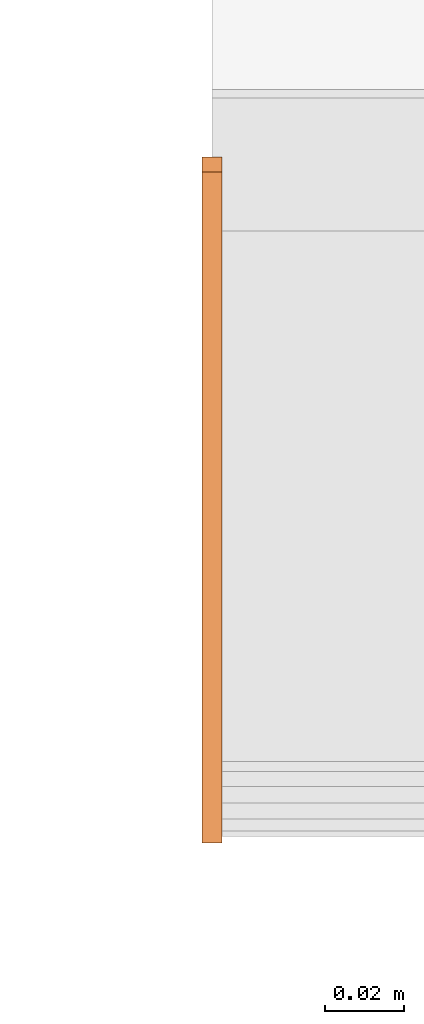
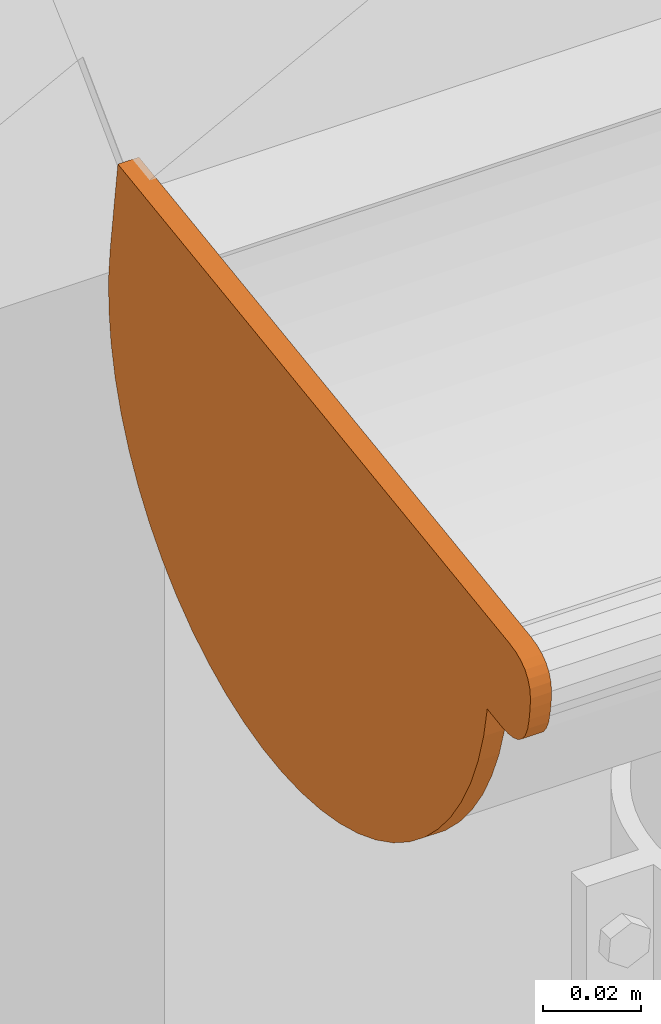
# One storey, part 27 of 43: 1 proxy.
"""IFC2X3 building model written with IfcOpenShell, lengths in millimetres."""

from ifc_helpers import new_model, si_unit, frame, origin_with_axes, place, context, project, spatial, faceted_brep, element, save


model = new_model("IFC2X3")

# Units and contexts
model_context = context("Model", 3, world=origin_with_axes())
ifc_project = project(units=[si_unit("LENGTHUNIT", "METRE", prefix="MILLI")], contexts=[model_context])

# Site, building, storey
site_placement = place(None, origin_with_axes())
site = spatial("IfcSite", under=ifc_project, at=site_placement, Name="Site", CompositionType="ELEMENT")
building_placement = place(site_placement, origin_with_axes())
building = spatial("IfcBuilding", under=site, at=building_placement, Name="?", CompositionType="ELEMENT")
storey_placement = place(building_placement, frame((0.0, 0.0, 5938.0), z_axis=(0.0, 0.0, 1.0), x_axis=(1.0, 0.0, 0.0)))
storey = spatial("IfcBuildingStorey", under=building, at=storey_placement, Name="Dachgeschoß", CompositionType="ELEMENT", Elevation=5938.0)

# Proxy
proxy_placement = place(None, origin_with_axes())
element("IfcBuildingElementProxy", 1, at=proxy_placement, inside=storey, Name="Dach02_RoofGutter#024", ObjectType="gutter", CompositionType="ELEMENT", context=model_context, shape_type="Brep", body=[
    faceted_brep([(9202.5, -7754.2509765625, 6644.93896484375), (9197.5, -7754.2509765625, 6644.93896484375), (9197.5, -7752.75647654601, 6637.18036494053), (9202.5, -7752.75647654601, 6637.18036494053), (9202.5, -7752.75634765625, 6637.18017578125), (9197.5, -7752.75634765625, 6637.18017578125), (9197.5, -7750.48454766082, 6629.61247599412), (9202.5, -7750.48454766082, 6629.61247599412), (9202.5, -7750.484375, 6629.61279296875), (9197.5, -7750.484375, 6629.61279296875), (9197.5, -7747.45867502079, 6622.31389280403), (9202.5, -7747.45867502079, 6622.31389280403), (9202.5, -7747.458984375, 6622.3134765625), (9197.5, -7747.458984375, 6622.3134765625), (9197.5, -7743.71028437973, 6615.3580766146), (9202.5, -7743.71028437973, 6615.3580766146), (9202.5, -7743.7099609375, 6615.3583984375), (9197.5, -7743.7099609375, 6615.3583984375), (9197.5, -7739.27686074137, 6608.81789834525), (9202.5, -7739.27686074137, 6608.81789834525), (9202.5, -7739.27734375, 6608.81787109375), (9197.5, -7739.27734375, 6608.81787109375), (9197.5, -7734.20534357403, 6602.75937116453), (9202.5, -7734.20534357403, 6602.75937116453), (9202.5, -7734.205078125, 6602.75927734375), (9197.5, -7734.205078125, 6602.75927734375), (9197.5, -7728.54617810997, 6597.24507732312), (9202.5, -7728.54617810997, 6597.24507732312), (9202.5, -7728.54638671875, 6597.2451171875), (9197.5, -7728.54638671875, 6597.2451171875), (9197.5, -7722.35858673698, 6592.33171697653), (9202.5, -7722.35858673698, 6592.33171697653), (9202.5, -7722.3583984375, 6592.33154296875), (9197.5, -7722.3583984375, 6592.33154296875), (9197.5, -7715.70539846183, 6588.06924304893), (9202.5, -7715.70539846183, 6588.06924304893), (9202.5, -7715.70556640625, 6588.0693359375), (9197.5, -7715.70556640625, 6588.0693359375), (9197.5, -7708.65536663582, 6584.50213591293), (9202.5, -7708.65536663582, 6584.50213591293), (9202.5, -7708.6552734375, 6584.501953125), (9197.5, -7708.6552734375, 6584.501953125), (9197.5, -7701.28037339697, 6581.66625324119), (9202.5, -7701.28037339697, 6581.66625324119), (9202.5, -7701.2802734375, 6581.66650390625), (9197.5, -7701.2802734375, 6581.66650390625), (9197.5, -7693.65637361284, 6579.59140394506), (9202.5, -7693.65637361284, 6579.59140394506), (9202.5, -7693.65625, 6579.59130859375), (9197.5, -7693.65625, 6579.59130859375), (9197.5, -7685.86154998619, 6578.29820858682), (9202.5, -7685.86154998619, 6578.29820858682), (9202.5, -7685.86181640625, 6578.29833984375), (9197.5, -7685.86181640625, 6578.29833984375), (9197.5, -7677.97621626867, 6577.80043982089), (9202.5, -7677.97621626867, 6577.80043982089), (9202.5, -7677.97607421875, 6577.80029296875), (9197.5, -7677.97607421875, 6577.80029296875), (9197.5, -7670.08057429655, 6578.10269295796), (9202.5, -7670.08057429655, 6578.10269295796), (9202.5, -7670.08056640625, 6578.1025390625), (9197.5, -7670.08056640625, 6578.1025390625), (9197.5, -7662.2561663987, 6579.20223903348), (9202.5, -7662.2561663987, 6579.20223903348), (9202.5, -7662.25634765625, 6579.20263671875), (9197.5, -7662.25634765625, 6579.20263671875), (9197.5, -7654.58334766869, 6581.08813669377), (9202.5, -7654.58334766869, 6581.08813669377), (9202.5, -7654.5830078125, 6581.087890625), (9197.5, -7654.5830078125, 6581.087890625), (9197.5, -7647.14020801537, 6583.74009059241), (9202.5, -7647.14020801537, 6583.74009059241), (9202.5, -7647.140625, 6583.740234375), (9197.5, -7647.140625, 6583.740234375), (9197.5, -7640.00422499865, 6587.13183440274), (9202.5, -7640.00422499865, 6587.13183440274), (9202.5, -7640.00390625, 6587.1318359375), (9197.5, -7640.00390625, 6587.1318359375), (9197.5, -7633.24730613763, 6591.22793584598), (9202.5, -7633.24730613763, 6591.22793584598), (9202.5, -7633.24755859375, 6591.22802734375), (9197.5, -7633.24755859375, 6591.22802734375), (9197.5, -7626.94005870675, 6595.98662726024), (9202.5, -7626.94005870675, 6595.98662726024), (9202.5, -7626.93994140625, 6595.986328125), (9197.5, -7626.93994140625, 6595.986328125), (9197.5, -7621.14614135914, 6601.35872833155), (9202.5, -7621.14614135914, 6601.35872833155), (9202.5, -7621.14599609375, 6601.35888671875), (9197.5, -7621.14599609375, 6601.35888671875), (9197.5, -7615.92549597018, 6607.28988671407), (9202.5, -7615.92549597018, 6607.28988671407), (9202.5, -7615.92578125, 6607.2900390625), (9197.5, -7615.92578125, 6607.2900390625), (9197.5, -7611.33198134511, 6613.71863918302), (9202.5, -7611.33198134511, 6613.71863918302), (9202.5, -7611.33203125, 6613.71826171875), (9197.5, -7611.33203125, 6613.71826171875), (9197.5, -7607.41233128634, 6620.57876151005), (9202.5, -7607.41233128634, 6620.57876151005), (9202.5, -7607.412109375, 6620.5791015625), (9197.5, -7607.412109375, 6620.5791015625), (9197.5, -7604.20650946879, 6627.8008014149), (9202.5, -7604.20650946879, 6627.8008014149), (9202.5, -7604.20654296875, 6627.80078125), (9197.5, -7604.20654296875, 6627.80078125), (9197.5, -7601.74794288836, 6635.30988116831), (9202.5, -7601.74794288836, 6635.30988116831), (9202.5, -7601.748046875, 6635.3095703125), (9197.5, -7601.748046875, 6635.3095703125), (9197.5, -7600.06184691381, 6643.02877046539), (9202.5, -7600.06184691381, 6643.02877046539), (9202.5, -7600.0615234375, 6643.02880859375), (9197.5, -7600.0615234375, 6643.02880859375), (9197.5, -7599.16482343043, 6650.87910882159), (9202.5, -7599.16482343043, 6650.87910882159), (9202.5, -7599.1650390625, 6650.87939453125), (9197.5, -7599.1650390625, 6650.87939453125), (9197.5, -7599.06723906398, 6658.77999466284), (9202.5, -7599.06723906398, 6658.77999466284), (9202.5, -7599.0673828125, 6658.77978515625), (9197.5, -7599.0673828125, 6658.77978515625), (9197.5, -7599.76928279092, 6666.64988526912), (9202.5, -7599.76928279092, 6666.64988526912), (9202.5, -7599.76904296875, 6666.64990234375), (9197.5, -7599.76904296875, 6666.64990234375), (9197.5, -7677.00994139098, 6655.79430188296), (9202.5, -7677.00994139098, 6655.79430188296), (9202.5, -7677.009765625, 6655.79443359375), (9197.5, -7677.009765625, 6655.79443359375), (9197.5, -7754.25066421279, 6644.93893386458), (9202.5, -7754.25066421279, 6644.93893386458), (9202.5, -7677.009765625, 6655.79443359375), (9202.5, -7600.061465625, 6643.02903359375), (9202.5, -7599.066965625, 6658.77993359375), (9202.5, -7599.768865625, 6666.65003359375), (9202.5, -7599.0673828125, 6658.77978515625), (9202.5, -7600.0618828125, 6643.02888515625), (9202.5, -7599.1651828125, 6650.87918515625), (9202.5, -7600.0615234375, 6643.02880859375), (9202.5, -7611.3316234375, 6613.71830859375), (9202.5, -7604.2063234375, 6627.80050859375), (9202.5, -7601.7477234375, 6635.30960859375), (9202.5, -7604.20654296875, 6627.80078125), (9202.5, -7611.33184296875, 6613.71858125), (9202.5, -7607.41214296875, 6620.57908125), (9202.5, -7677.009765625, 6655.79443359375), (9202.5, -7662.255965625, 6579.20253359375), (9202.5, -7611.331565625, 6613.71853359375), (9202.5, -7600.061465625, 6643.02903359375), (9202.5, -7611.33203125, 6613.71826171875), (9202.5, -7633.24763125, 6591.22766171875), (9202.5, -7621.14633125, 6601.35866171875), (9202.5, -7615.92583125, 6607.28966171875), (9202.5, -7621.14599609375, 6601.35888671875), (9202.5, -7633.24729609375, 6591.22788671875), (9202.5, -7626.93979609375, 6595.98648671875), (9202.5, -7633.24755859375, 6591.22802734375), (9202.5, -7662.25635859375, 6579.20262734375), (9202.5, -7647.14055859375, 6583.74032734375), (9202.5, -7640.00415859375, 6587.13192734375), (9202.5, -7647.140625, 6583.740234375), (9202.5, -7662.256425, 6579.202534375), (9202.5, -7654.583425, 6581.088034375), (9202.5, -7611.33203125, 6613.71826171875), (9202.5, -7662.25643125, 6579.20226171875), (9202.5, -7633.24763125, 6591.22766171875), (9202.5, -7662.25634765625, 6579.20263671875), (9202.5, -7693.65654765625, 6579.59153671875), (9202.5, -7677.97624765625, 6577.80053671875), (9202.5, -7670.08074765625, 6578.10293671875), (9202.5, -7677.97607421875, 6577.80029296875), (9202.5, -7693.65637421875, 6579.59129296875), (9202.5, -7685.86167421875, 6578.29819296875), (9202.5, -7693.65625, 6579.59130859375), (9202.5, -7722.35825, 6592.33160859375), (9202.5, -7708.65505, 6584.50210859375), (9202.5, -7701.28015, 6581.66640859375), (9202.5, -7708.6552734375, 6584.501953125), (9202.5, -7722.3584734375, 6592.331453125), (9202.5, -7715.7054734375, 6588.069153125), (9202.5, -7662.25634765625, 6579.20263671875), (9202.5, -7677.01014765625, 6655.79453671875), (9202.5, -7722.35854765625, 6592.33183671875), (9202.5, -7693.65654765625, 6579.59153671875), (9202.5, -7722.3583984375, 6592.33154296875), (9202.5, -7743.7101984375, 6615.35814296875), (9202.5, -7734.2050984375, 6602.75914296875), (9202.5, -7728.5461984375, 6597.24494296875), (9202.5, -7734.205078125, 6602.75927734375), (9202.5, -7743.710178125, 6615.35827734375), (9202.5, -7739.277078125, 6608.81777734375), (9202.5, -7677.009765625, 6655.79443359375), (9202.5, -7750.484365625, 6629.61263359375), (9202.5, -7743.709965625, 6615.35833359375), (9202.5, -7722.358165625, 6592.33173359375), (9202.5, -7743.7099609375, 6615.3583984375), (9202.5, -7750.4843609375, 6629.6126984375), (9202.5, -7747.4586609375, 6622.3137984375), (9202.5, -7677.009765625, 6655.79443359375), (9202.5, -7754.250665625, 6644.93893359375), (9202.5, -7752.756165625, 6637.18033359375), (9202.5, -7750.484365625, 6629.61263359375), (9197.5, -7752.75634765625, 6637.18017578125), (9197.5, -7739.27704765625, 6608.81767578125), (9197.5, -7747.45884765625, 6622.31357578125), (9197.5, -7750.48454765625, 6629.61247578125), (9197.5, -7747.458984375, 6622.3134765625), (9197.5, -7739.277184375, 6608.8175765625), (9197.5, -7743.710284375, 6615.3580765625), (9197.5, -7739.27734375, 6608.81787109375), (9197.5, -7715.70564375, 6588.06947109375), (9197.5, -7728.54644375, 6597.24517109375), (9197.5, -7734.20534375, 6602.75937109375), (9197.5, -7728.54638671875, 6597.2451171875), (9197.5, -7715.70558671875, 6588.0694171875), (9197.5, -7722.35858671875, 6592.3317171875), (9197.5, -7752.75634765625, 6637.18017578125), (9197.5, -7654.58314765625, 6581.08787578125), (9197.5, -7715.70534765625, 6588.06927578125), (9197.5, -7739.27704765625, 6608.81767578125), (9197.5, -7715.70556640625, 6588.0693359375), (9197.5, -7685.86186640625, 6578.2982359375), (9197.5, -7701.28046640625, 6581.6664359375), (9197.5, -7708.65536640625, 6584.5021359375), (9197.5, -7701.2802734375, 6581.66650390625), (9197.5, -7685.8616734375, 6578.29830390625), (9197.5, -7693.6563734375, 6579.59140390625), (9197.5, -7685.86181640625, 6578.29833984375), (9197.5, -7654.58331640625, 6581.08803984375), (9197.5, -7670.08071640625, 6578.10283984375), (9197.5, -7677.97621640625, 6577.80043984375), (9197.5, -7670.08056640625, 6578.1025390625), (9197.5, -7654.58316640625, 6581.0877390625), (9197.5, -7662.25616640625, 6579.2022390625), (9197.5, -7715.70556640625, 6588.0693359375), (9197.5, -7654.58336640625, 6581.0879359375), (9197.5, -7685.86186640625, 6578.2982359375), (9197.5, -7654.5830078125, 6581.087890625), (9197.5, -7626.9397078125, 6595.986390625), (9197.5, -7640.0038078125, 6587.131690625), (9197.5, -7647.1402078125, 6583.740090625), (9197.5, -7640.00390625, 6587.1318359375), (9197.5, -7626.93980625, 6595.9865359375), (9197.5, -7633.24730625, 6591.2279359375), (9197.5, -7626.93994140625, 6595.986328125), (9197.5, -7607.41214140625, 6620.578828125), (9197.5, -7615.92564140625, 6607.289728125), (9197.5, -7621.14614140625, 6601.358728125), (9197.5, -7615.92578125, 6607.2900390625), (9197.5, -7607.41228125, 6620.5791390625), (9197.5, -7611.33198125, 6613.7186390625), (9197.5, -7654.5830078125, 6581.087890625), (9197.5, -7752.7562078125, 6637.180190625), (9197.5, -7607.4119078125, 6620.578890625), (9197.5, -7626.9397078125, 6595.986390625), (9197.5, -7607.412109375, 6620.5791015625), (9197.5, -7599.165009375, 6650.8794015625), (9197.5, -7601.747909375, 6635.3099015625), (9197.5, -7604.206509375, 6627.8008015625), (9197.5, -7601.748046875, 6635.3095703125), (9197.5, -7599.165146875, 6650.8790703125), (9197.5, -7600.061846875, 6643.0287703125), (9197.5, -7752.75634765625, 6637.18017578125), (9197.5, -7599.76904765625, 6666.64987578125), (9197.5, -7599.16494765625, 6650.87917578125), (9197.5, -7607.41204765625, 6620.57887578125), (9197.5, -7599.1650390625, 6650.87939453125), (9197.5, -7599.7691390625, 6666.65009453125), (9197.5, -7599.0672390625, 6658.77999453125), (9197.5, -7752.75634765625, 6637.18017578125), (9197.5, -7754.25084765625, 6644.93877578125), (9197.5, -7677.00994765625, 6655.79427578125), (9197.5, -7599.76904765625, 6666.64987578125), (9197.5, -7599.76904296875, 6666.64990234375), (9202.5, -7599.76904296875, 6666.64990234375), (9202.5, -7760.09054740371, 6644.10700284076), (9197.5, -7760.09054740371, 6644.10700284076), (9197.5, -7602.8671875, 6689.4296875), (9197.5, -7763.29158760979, 6666.88348798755), (9202.5, -7763.29158760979, 6666.88348798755), (9202.5, -7602.8671875, 6689.4296875), (9197.5, -7599.76904296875, 6666.64990234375), (9197.5, -7602.86714292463, 6689.42940178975), (9202.5, -7602.86714292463, 6689.42940178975), (9202.5, -7599.76904296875, 6666.64990234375), (9202.5, -7599.76904296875, 6666.64990234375), (9202.5, -7765.05394296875, 6644.23370234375), (9202.5, -7762.74594296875, 6643.93990234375), (9202.5, -7760.09054296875, 6644.10700234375), (9202.5, -7599.76904296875, 6666.64990234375), (9202.5, -7768.62794296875, 6646.20420234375), (9202.5, -7767.01464296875, 6644.98850234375), (9202.5, -7765.05394296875, 6644.23370234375), (9202.5, -7599.76904296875, 6666.64990234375), (9202.5, -7770.81254296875, 6650.01850234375), (9202.5, -7769.89394296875, 6647.88090234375), (9202.5, -7768.62794296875, 6646.20420234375), (9202.5, -7599.76904296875, 6666.64990234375), (9202.5, -7763.29154296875, 6666.88320234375), (9202.5, -7771.38384296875, 6652.61710234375), (9202.5, -7770.81254296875, 6650.01850234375), (9202.5, -7771.3837890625, 6652.6171875), (9202.5, -7771.6748890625, 6660.5533875), (9202.5, -7771.9686890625, 6658.2453875), (9202.5, -7771.8015890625, 6655.5899875), (9202.5, -7771.3837890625, 6652.6171875), (9202.5, -7769.7043890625, 6664.1273875), (9202.5, -7770.9200890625, 6662.5140875), (9202.5, -7771.6748890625, 6660.5533875), (9202.5, -7771.3837890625, 6652.6171875), (9202.5, -7765.8900890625, 6666.3119875), (9202.5, -7768.0276890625, 6665.3933875), (9202.5, -7769.7043890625, 6664.1273875), (9202.5, -7771.3837890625, 6652.6171875), (9202.5, -7763.2914890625, 6666.8832875), (9202.5, -7765.8900890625, 6666.3119875), (9202.5, -7599.76904296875, 6666.64990234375), (9202.5, -7602.86714296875, 6689.42940234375), (9202.5, -7763.29154296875, 6666.88320234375), (9202.5, -7771.3837890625, 6652.6171875), (9202.5, -7771.80158905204, 6655.58998747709), (9197.5, -7771.80158905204, 6655.58998747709), (9197.5, -7771.3837890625, 6652.6171875), (9197.5, -7760.0908203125, 6644.10693359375), (9197.5, -7771.8019203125, 6655.58983359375), (9197.5, -7602.8674203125, 6689.42933359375), (9197.5, -7599.7693203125, 6666.64983359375), (9197.5, -7602.8671875, 6689.4296875), (9197.5, -7768.0277875, 6665.3935875), (9197.5, -7765.8901875, 6666.3121875), (9197.5, -7763.2915875, 6666.8834875), (9197.5, -7602.8671875, 6689.4296875), (9197.5, -7770.9201875, 6662.5142875), (9197.5, -7769.7044875, 6664.1275875), (9197.5, -7768.0277875, 6665.3935875), (9197.5, -7602.8671875, 6689.4296875), (9197.5, -7771.9687875, 6658.2455875), (9197.5, -7771.6749875, 6660.5535875), (9197.5, -7770.9201875, 6662.5142875), (9197.5, -7602.8671875, 6689.4296875), (9197.5, -7771.8016875, 6655.5901875), (9197.5, -7771.9687875, 6658.2455875), (9197.5, -7762.74609375, 6643.93994140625), (9197.5, -7765.05409375, 6644.23374140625), (9197.5, -7771.80179375, 6655.58994140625), (9197.5, -7760.09069375, 6644.10704140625), (9197.5, -7767.0146484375, 6644.98876953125), (9197.5, -7768.6279484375, 6646.20446953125), (9197.5, -7771.8016484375, 6655.59016953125), (9197.5, -7765.0539484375, 6644.23396953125), (9197.5, -7769.89404296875, 6647.880859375), (9197.5, -7770.81264296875, 6650.018459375), (9197.5, -7771.80174296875, 6655.589859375), (9197.5, -7768.62804296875, 6646.204159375), (9197.5, -7771.3837890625, 6652.6171875), (9197.5, -7771.8015890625, 6655.5899875), (9197.5, -7770.8124890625, 6650.0185875), (9202.5, -7762.74609375, 6643.93994140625), (9197.5, -7762.74609375, 6643.93994140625), (9197.5, -7760.09069368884, 6644.10704139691), (9202.5, -7760.09069368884, 6644.10704139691), (9197.5, -7765.89013671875, 6666.31201171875), (9202.5, -7765.89013671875, 6666.31201171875), (9202.5, -7763.291536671, 6666.88331171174), (9197.5, -7763.291536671, 6666.88331171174), (9202.5, -7765.05419921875, 6644.23388671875), (9197.5, -7765.05419921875, 6644.23388671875), (9197.5, -7762.74619921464, 6643.9400867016), (9202.5, -7762.74619921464, 6643.9400867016), (9202.5, -7767.0146484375, 6644.98876953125), (9197.5, -7767.0146484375, 6644.98876953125), (9197.5, -7765.05394848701, 6644.23396956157), (9202.5, -7765.05394848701, 6644.23396956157), (9202.5, -7768.6279296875, 6646.2041015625), (9197.5, -7768.6279296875, 6646.2041015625), (9197.5, -7767.01462973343, 6644.98840159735), (9202.5, -7767.01462973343, 6644.98840159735), (9202.5, -7769.89404296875, 6647.880859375), (9197.5, -7769.89404296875, 6647.880859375), (9197.5, -7768.62804300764, 6646.20415938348), (9202.5, -7768.62804300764, 6646.20415938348), (9202.5, -7770.8125, 6650.0185546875), (9197.5, -7770.8125, 6650.0185546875), (9197.5, -7769.89390000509, 6647.88095474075), (9202.5, -7769.89390000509, 6647.88095474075), (9202.5, -7771.3837890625, 6652.6171875), (9197.5, -7771.3837890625, 6652.6171875), (9197.5, -7770.81248906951, 6650.01858745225), (9202.5, -7770.81248906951, 6650.01858745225), (9197.5, -7768.02783203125, 6665.3935546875), (9202.5, -7768.02783203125, 6665.3935546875), (9202.5, -7765.8902320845, 6666.31215468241), (9197.5, -7765.8902320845, 6666.31215468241), (9197.5, -7769.70458984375, 6664.12744140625), (9202.5, -7769.70458984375, 6664.12744140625), (9202.5, -7768.02788985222, 6665.39344136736), (9197.5, -7768.02788985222, 6665.39344136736), (9197.5, -7770.92041015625, 6662.51416015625), (9202.5, -7770.92041015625, 6662.51416015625), (9202.5, -7769.7047101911, 6664.12746011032), (9197.5, -7769.7047101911, 6664.12746011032), (9197.5, -7771.6748046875, 6660.55322265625), (9202.5, -7771.6748046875, 6660.55322265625), (9202.5, -7770.92000471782, 6662.51392260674), (9197.5, -7770.92000471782, 6662.51392260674), (9197.5, -7771.96875, 6658.24560546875), (9202.5, -7771.96875, 6658.24560546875), (9202.5, -7771.67494998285, 6660.55360547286), (9197.5, -7771.67494998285, 6660.55360547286), (9197.5, -7771.8017578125, 6655.58984375), (9202.5, -7771.8017578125, 6655.58984375), (9202.5, -7771.96885780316, 6658.24524381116), (9197.5, -7771.96885780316, 6658.24524381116)], [[[0, 1, 2, 3]], [[4, 5, 6, 7]], [[8, 9, 10, 11]], [[12, 13, 14, 15]], [[16, 17, 18, 19]], [[20, 21, 22, 23]], [[24, 25, 26, 27]], [[28, 29, 30, 31]], [[32, 33, 34, 35]], [[36, 37, 38, 39]], [[40, 41, 42, 43]], [[44, 45, 46, 47]], [[48, 49, 50, 51]], [[52, 53, 54, 55]], [[56, 57, 58, 59]], [[60, 61, 62, 63]], [[64, 65, 66, 67]], [[68, 69, 70, 71]], [[72, 73, 74, 75]], [[76, 77, 78, 79]], [[80, 81, 82, 83]], [[84, 85, 86, 87]], [[88, 89, 90, 91]], [[92, 93, 94, 95]], [[96, 97, 98, 99]], [[100, 101, 102, 103]], [[104, 105, 106, 107]], [[108, 109, 110, 111]], [[112, 113, 114, 115]], [[116, 117, 118, 119]], [[120, 121, 122, 123]], [[124, 125, 126, 127]], [[128, 129, 130, 131]], [[132, 133, 134, 135]], [[136, 137, 138]], [[139, 140, 141, 142]], [[143, 144, 145]], [[146, 147, 148, 149]], [[150, 151, 152, 153]], [[154, 155, 156]], [[157, 158, 159, 160]], [[161, 162, 163]], [[164, 165, 166]], [[167, 168, 169, 170]], [[171, 172, 173]], [[174, 175, 176, 177]], [[178, 179, 180]], [[181, 182, 183, 184]], [[185, 186, 187, 188]], [[189, 190, 191]], [[192, 193, 194, 195]], [[196, 197, 198]], [[199, 200, 201, 202]], [[203, 204, 205, 206]], [[207, 208, 209]], [[210, 211, 212, 213]], [[214, 215, 216]], [[217, 218, 219, 220]], [[221, 222, 223, 224]], [[225, 226, 227]], [[228, 229, 230, 231]], [[232, 233, 234]], [[235, 236, 237]], [[238, 239, 240, 241]], [[242, 243, 244]], [[245, 246, 247, 248]], [[249, 250, 251]], [[252, 253, 254, 255]], [[256, 257, 258, 259]], [[260, 261, 262]], [[263, 264, 265, 266]], [[267, 268, 269]], [[270, 271, 272, 273]], [[274, 275, 276, 277]], [[278, 279, 280, 281]], [[282, 283, 284, 285]], [[286, 287, 288, 289]], [[290, 291, 292, 293]], [[294, 295, 296, 297]], [[298, 299, 300, 301]], [[302, 303, 304, 305]], [[306, 307, 308, 309]], [[310, 311, 312, 313]], [[314, 315, 316]], [[317, 318, 319]], [[320, 321, 322, 323]], [[324, 325, 326, 327]], [[328, 329, 330, 331]], [[332, 333, 334, 335]], [[336, 337, 338, 339]], [[340, 341, 342]], [[343, 344, 345, 346]], [[347, 348, 349, 350]], [[351, 352, 353, 354]], [[355, 356, 357]], [[358, 359, 360, 361]], [[362, 363, 364, 365]], [[366, 367, 368, 369]], [[370, 371, 372, 373]], [[374, 375, 376, 377]], [[378, 379, 380, 381]], [[382, 383, 384, 385]], [[386, 387, 388, 389]], [[390, 391, 392, 393]], [[394, 395, 396, 397]], [[398, 399, 400, 401]], [[402, 403, 404, 405]], [[406, 407, 408, 409]], [[410, 411, 412, 413]]]),
])

save(model, "model.ifc")
